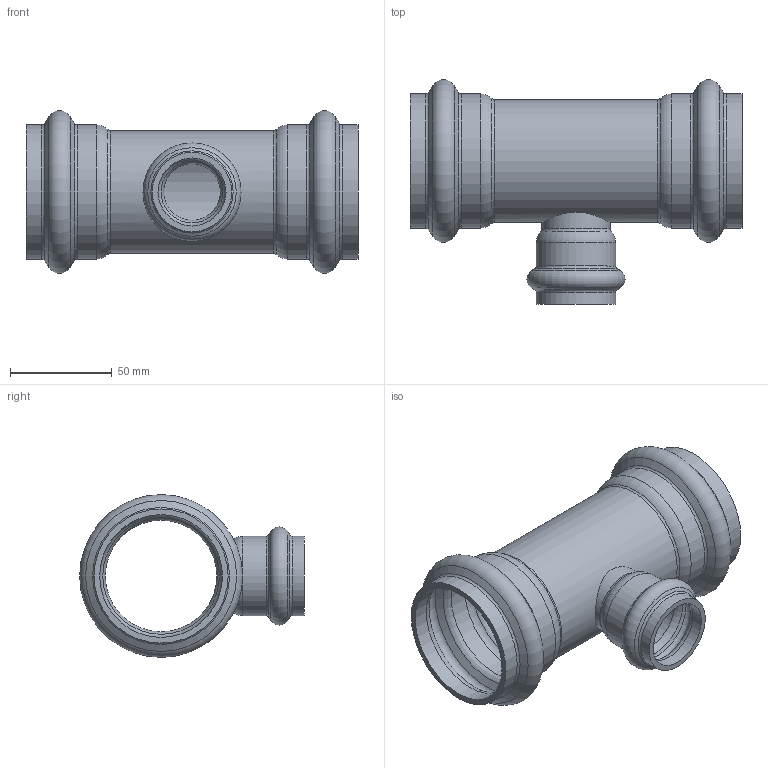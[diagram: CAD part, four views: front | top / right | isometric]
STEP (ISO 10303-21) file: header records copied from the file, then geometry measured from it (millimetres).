
FILE_DESCRIPTION(/* description */ ('VIC TEE RED. BRANCH STYLE P593 (P X P X P)','CAx-IF Rec.Pracs.---Representation and Presentation of Product Manufacturing Information (PMI)---4.0---2014-10-13'),/* implementation_level */ '2;1');
FILE_NAME(/* name */ 'C:\Users\Vjadhav\AppData\Roaming\Autodesk\ApplicationPlugins\Back Up\Victaulic_SS-Vic-Press-TP 304_Tee Reducing_Style P593 (VP)\Victaulic_SS-Vic-Press-TP 304_Tee Reducing_Style P593 (VP)_02.0x01.0 (50x25).stp',/* time_stamp */ '2020-08-12T18:32:39+05:00',/* author */ ('cgray'),/* organization */ ('Victaulic'),/* preprocessor_version */ 'ST-DEVELOPER v17.2',/* originating_system */ 'Autodesk Inventor 2019',/* authorisation */ '');
FILE_SCHEMA (('AP242_MANAGED_MODEL_BASED_3D_ENGINEERING_MIM_LF { 1 0 10303 442 1 1 4 }'));
Length unit declared in the file: inch
Products named in the file (1): P593-02.0x01.0
Bounding box: 163.07 x 110.32 x 79.93 mm (x, y, z)
Volume: 109357.5 mm3; surface area: 80389.8 mm2
Topology: 1 solids, 1 shells, 61 faces, 220 edges, 160 vertices
Faces by surface type: torus 30, cylinder 16, cone 12, plane 3
Full cylindrical faces by diameter (mm): 27.864 x1, 33.401 x3, 38.938 x2, 54.788 x1, 60.325 x5, 65.862 x4
Entity records: 2833 total; most frequent: CARTESIAN_POINT 571, DIRECTION 544, ORIENTED_EDGE 440, AXIS2_PLACEMENT_3D 257, EDGE_CURVE 220, CIRCLE 182, VERTEX_POINT 160, EDGE_LOOP 64
